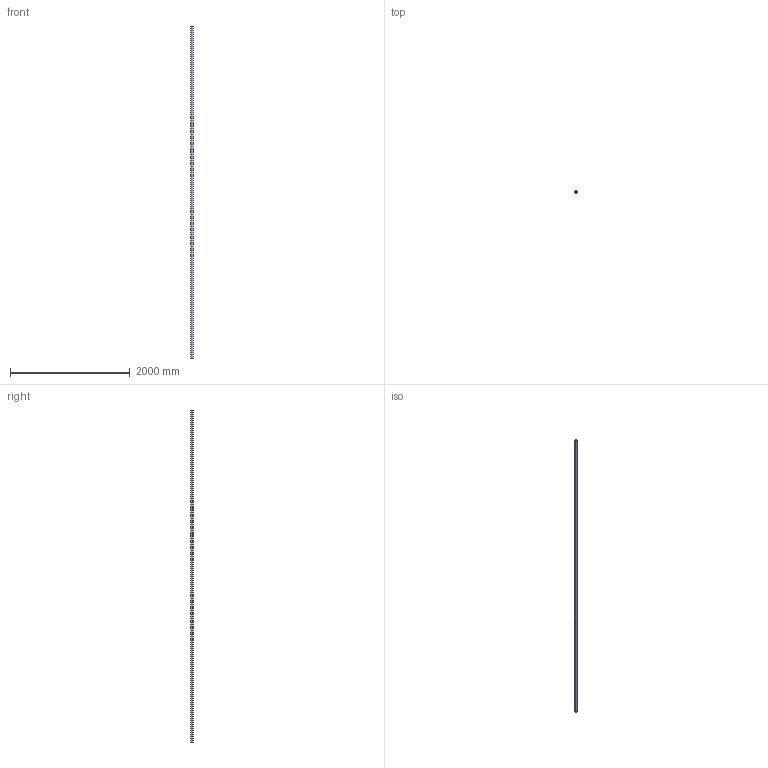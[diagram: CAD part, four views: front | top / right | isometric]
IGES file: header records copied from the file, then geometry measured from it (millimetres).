
Start section: SolidWorks IGES file using analytic representation for surfaces
Global section: file name: C:\Users\IanO\Desktop\L1771_v2\L1771.40_v2\L1771.40_v2_20230705_IGES\L1771.40-5550.igs; native system: SolidWorks 2019; preprocessor: SolidWorks 2019; author: IanO; date: 230705.163218; units: millimetre
Bounding box: 40 x 40 x 5550 mm (x, y, z)
Surface area: 1186918.8 mm2 (no closed solid volume)
Topology: 0 solids, 0 shells, 6 faces, 272 edges, 272 vertices
Faces by surface type: revolution 4, bspline 2
